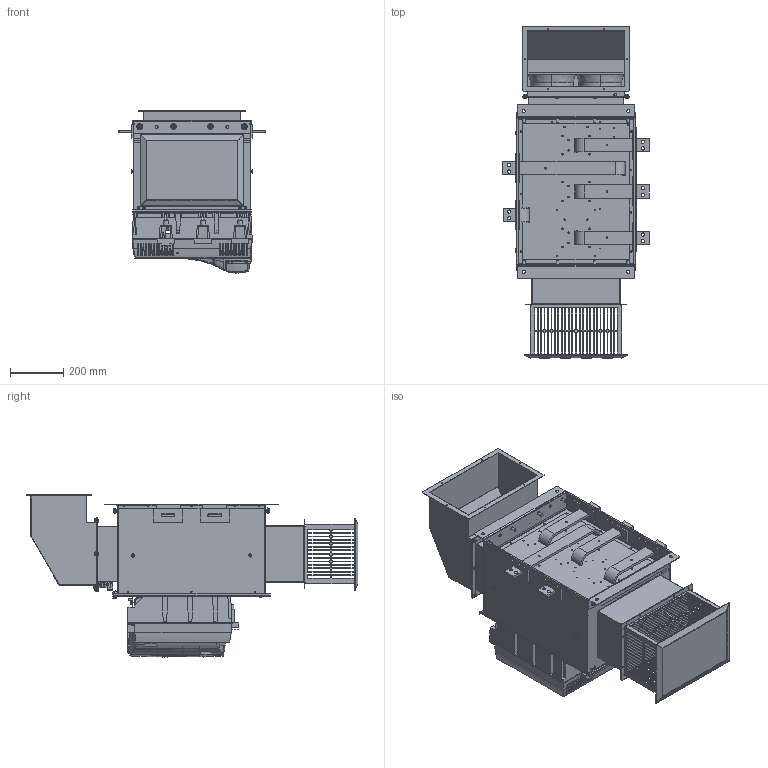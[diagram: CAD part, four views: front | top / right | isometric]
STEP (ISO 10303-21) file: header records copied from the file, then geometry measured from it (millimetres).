
FILE_DESCRIPTION((''),'2;1');
FILE_NAME('MENTOR_SIZE_2C_SW','2010-03-11T',('wongch01'),(''),'PRO/ENGINEER BY PARAMETRIC TECHNOLOGY CORPORATION, 2007160','PRO/ENGINEER BY PARAMETRIC TECHNOLOGY CORPORATION, 2007160','');
FILE_SCHEMA(('CONFIG_CONTROL_DESIGN'));
Products named in the file (1): MENTOR_SIZE_2C_SW
Bounding box: 554 x 1251.1 x 610.97 mm (x, y, z)
Surface area: 6577621.7 mm2 (no closed solid volume)
Topology: 0 solids, 391 shells, 1823 faces, 12970 edges, 11161 vertices
Faces by surface type: plane 1212, cylinder 327, bspline 119, torus 77, cone 44, sphere 28, revolution 16
Entity records: 154102 total; most frequent: CARTESIAN_POINT 46130, DIRECTION 19631, ORIENTED_EDGE 16131, EDGE_CURVE 12962, VERTEX_POINT 11161, VECTOR 7833, LINE 7833, AXIS2_PLACEMENT_3D 5891
